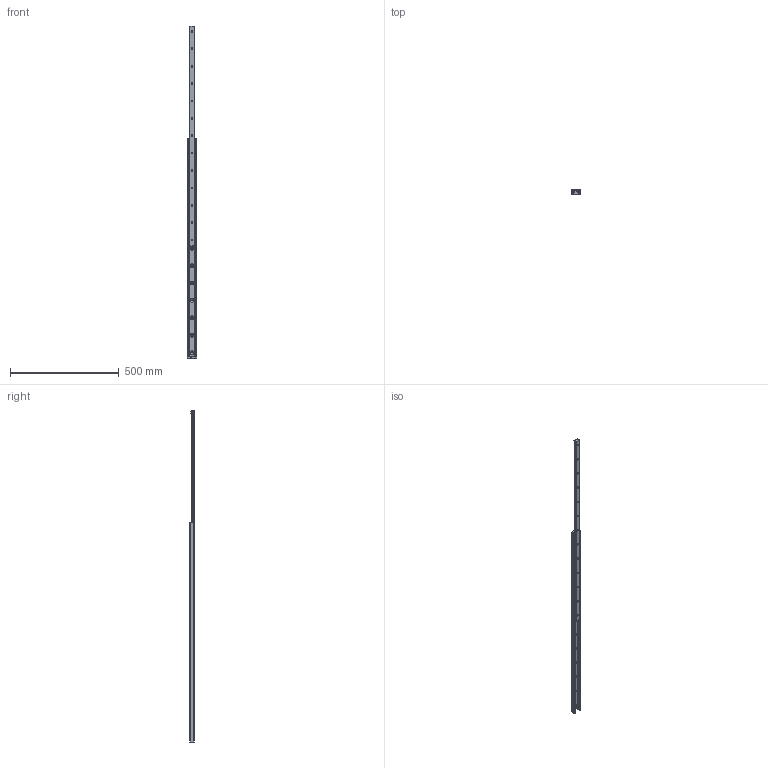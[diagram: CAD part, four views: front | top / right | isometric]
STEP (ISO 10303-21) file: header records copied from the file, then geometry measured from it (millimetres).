
FILE_DESCRIPTION(('STEP AP214'),'1');
FILE_NAME('rail_asn43-1010_01.stp','2017-06-06T10:15:24',('TraceParts'),('TraceParts S.A.'),'Spatial InterOp 3D',' ',' ');
FILE_SCHEMA(('automotive_design'));
Length unit declared in the file: millimetre
Products named in the file (2): rail_asn43-1010_01_1; rail_asn43-1010_01_2
Bounding box: 43 x 22.01 x 1528 mm (x, y, z)
Volume: 614791 mm3; surface area: 238242.3 mm2
Topology: 2 solids, 2 shells, 207 faces, 516 edges, 318 vertices
Faces by surface type: cylinder 83, cone 78, plane 46
Entity records: 6304 total; most frequent: DIRECTION 1178, CARTESIAN_POINT 1043, ORIENTED_EDGE 1032, EDGE_CURVE 516, AXIS2_PLACEMENT_3D 453, VERTEX_POINT 318, LINE 272, VECTOR 272
